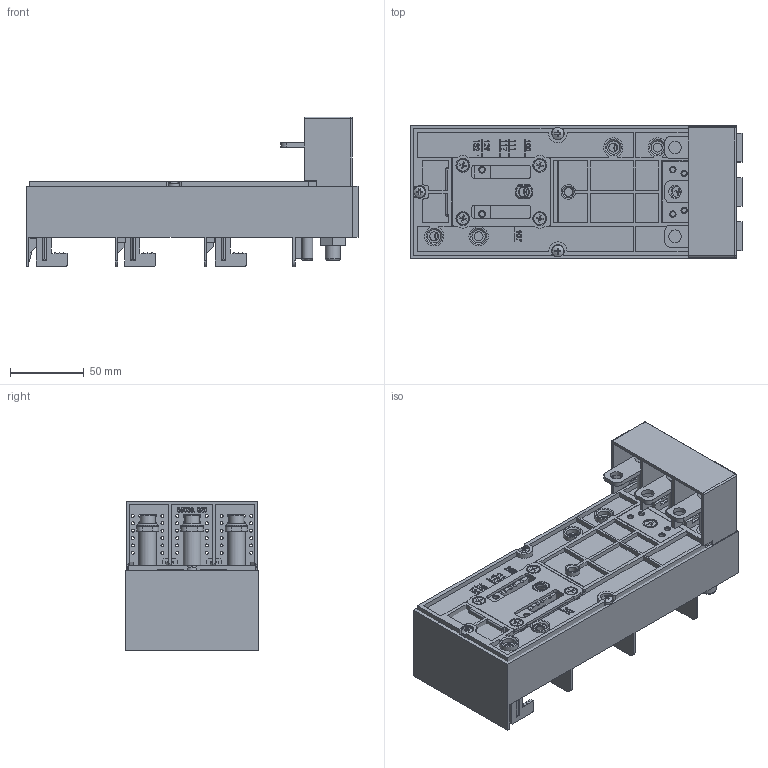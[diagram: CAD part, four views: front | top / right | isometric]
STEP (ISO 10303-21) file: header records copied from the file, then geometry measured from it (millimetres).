
FILE_DESCRIPTION (( 'STEP AP203' ), '1' );
FILE_NAME ('55031.STEP', '2021-08-23T01:32:16', ( '' ), ( '' ), 'SwSTEP 2.0', 'SolidWorks 2017', '' );
FILE_SCHEMA (( 'CONFIG_CONTROL_DESIGN' ));
Products named in the file (2): 55031
Bounding box: 224.5 x 90 x 101.3 mm (x, y, z)
Volume: 761448.9 mm3; surface area: 210147.5 mm2
Topology: 8 solids, 8 shells, 2386 faces, 6404 edges, 4181 vertices
Faces by surface type: plane 1573, cylinder 501, bspline 202, cone 97, torus 11, sphere 2
Full cylindrical faces by diameter (mm): 2 x90, 3.2 x6, 3.3 x2, 3.5 x2, 4 x10, 4.2 x3, 4.3 x4, 4.5 x1, 6 x8, 6.5 x1, 7 x3, 7.5 x1, 8 x12, 8.5 x3, 9 x9, 10 x7, 11 x4, 12 x3, 13 x1, 15 x3
Entity records: 91766 total; most frequent: CARTESIAN_POINT 33556, ORIENTED_EDGE 12144, DIRECTION 11038, EDGE_CURVE 6072, LINE 4490, VECTOR 4490, VERTEX_POINT 4118, AXIS2_PLACEMENT_3D 3274
